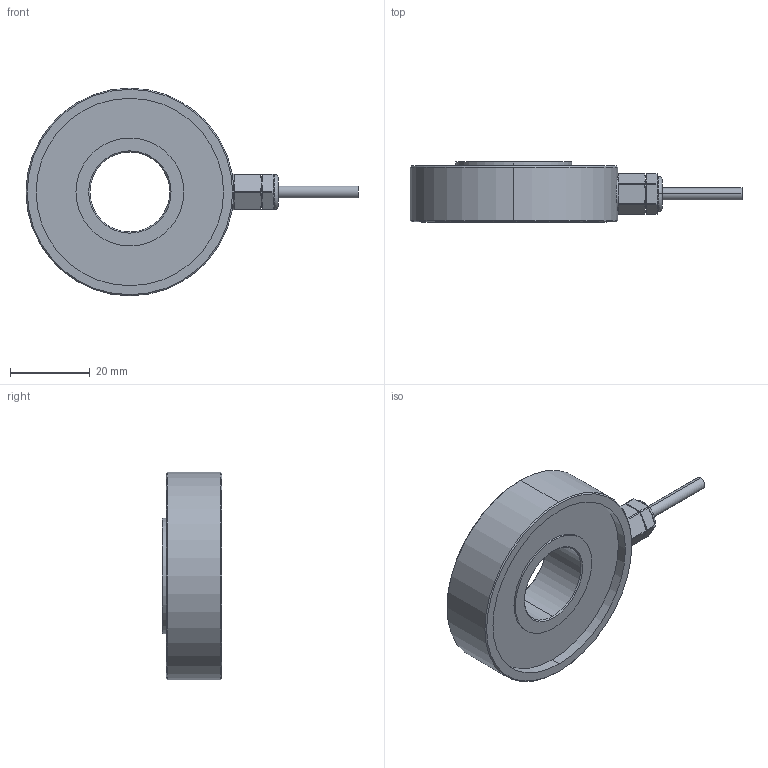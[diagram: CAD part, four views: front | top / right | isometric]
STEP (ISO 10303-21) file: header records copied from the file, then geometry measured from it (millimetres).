
FILE_DESCRIPTION (( 'STEP AP203' ), '1' );
FILE_NAME ('LCD01.STEP', '2024-11-14T01:20:13', ( '' ), ( '' ), 'SwSTEP 2.0', 'SolidWorks 2019', '' );
FILE_SCHEMA (( 'CONFIG_CONTROL_DESIGN' ));
Length unit declared in the file: millimetre
Products named in the file (1): LCD01
Bounding box: 83.1 x 15 x 52 mm (x, y, z)
Volume: 22236.9 mm3; surface area: 7970.2 mm2
Topology: 1 solids, 1 shells, 78 faces, 184 edges, 116 vertices
Faces by surface type: cylinder 32, plane 28, torus 10, cone 8
Entity records: 2457 total; most frequent: CARTESIAN_POINT 545, DIRECTION 406, ORIENTED_EDGE 368, EDGE_CURVE 184, AXIS2_PLACEMENT_3D 165, VERTEX_POINT 116, EDGE_LOOP 88, CIRCLE 86
